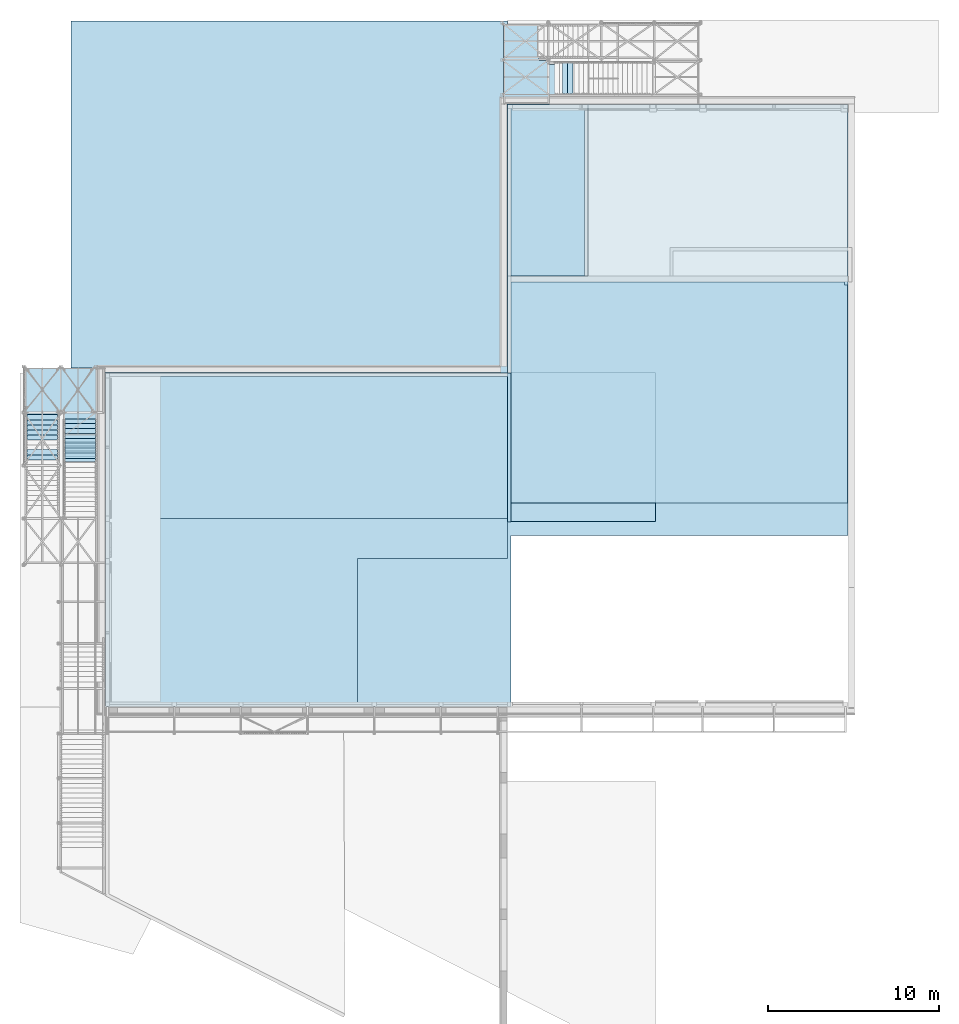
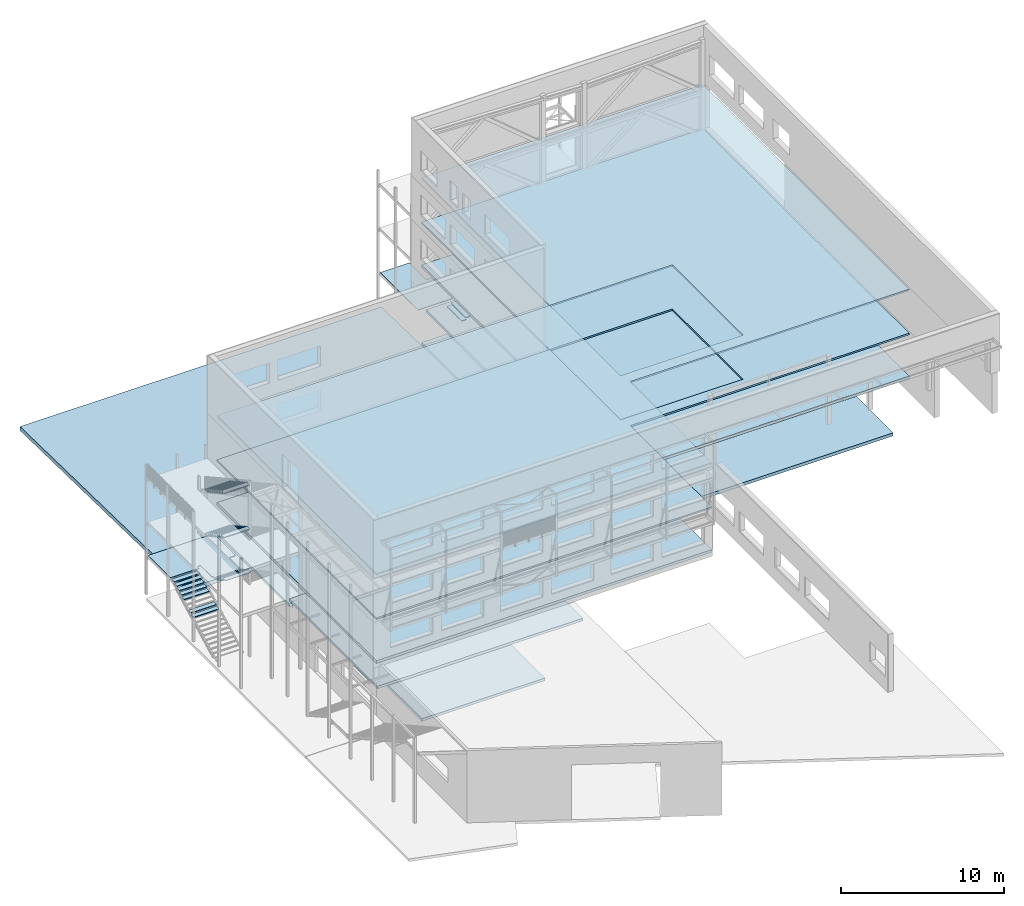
# One storey, part 59 of 78: 33 plates, 8 slabs, 41 elements without a shape of their own.
"""IFC2X3 building model written with IfcOpenShell, lengths in millimetres."""

from ifc_helpers import new_model, si_unit, frame, origin_with_axes, place, context, subcontext, project, spatial, polyline, outline, extrude, boolean, material, type_object, element, aggregate, save


model = new_model("IFC2X3")

# Units and contexts
model_context = context("Model", 3, precision=1e-05, world=origin_with_axes())
body_context = subcontext(model_context, "Body", "Model", "MODEL_VIEW")
ifc_project = project(units=[si_unit("LENGTHUNIT", "METRE", prefix="MILLI"), si_unit("AREAUNIT", "SQUARE_METRE"), si_unit("VOLUMEUNIT", "CUBIC_METRE"), si_unit("MASSUNIT", "GRAM", prefix="KILO"), si_unit("TIMEUNIT", "SECOND"), si_unit("PLANEANGLEUNIT", "RADIAN"), si_unit("SOLIDANGLEUNIT", "STERADIAN"), si_unit("THERMODYNAMICTEMPERATUREUNIT", "DEGREE_CELSIUS"), si_unit("LUMINOUSINTENSITYUNIT", "LUMEN")], contexts=[model_context])

# Site, building, storey
site_placement = place(None, origin_with_axes())
site = spatial("IfcSite", under=ifc_project, at=site_placement, Name="Site", CompositionType="ELEMENT")
building_placement = place(site_placement, origin_with_axes())
building = spatial("IfcBuilding", under=site, at=building_placement, Name="Undefined", CompositionType="ELEMENT")
storey_placement = place(building_placement, origin_with_axes())
storey = spatial("IfcBuildingStorey", under=building, at=storey_placement, Name="Undefined", CompositionType="ELEMENT", Elevation=0.0)

# Assembly, plate
assembly_1_placement = place(storey_placement, origin_with_axes())
assembly_1 = element("IfcElementAssembly", 1, at=assembly_1_placement, inside=storey, AssemblyPlace="NOTDEFINED", PredefinedType="RIGID_FRAME")
ifc_material_1 = material(Name="STEEL/S235JR")
plate_type_1 = type_object("IfcPlateType", Name="PL30*4325", PredefinedType="NOTDEFINED")
plate_1_placement = place(assembly_1_placement, frame((-35311.3999999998, 12733.0, 150885.04), z_axis=(0.0, 0.0, 1.0), x_axis=(0.0, -1.0, 0.0)))
plate_1 = element("IfcPlate", 2, at=plate_1_placement, type_object=plate_type_1, material=ifc_material_1, Name="CAILLEBOTIS", ObjectType="PL30*4325", context=body_context, shape_type="SweptSolid", body=[
    extrude(outline(polyline([(0.0, 0.0), (2759.00000000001, 5.0931703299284e-11), (2759.00000000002, 2019.96999999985), (2550.0, 2019.97420066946), (2550.0, 2248.53999999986), (3932.16000000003, 2248.53999999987), (3932.16000000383, 2333.53825699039), (4325.00000011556, 2333.5382569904), (4324.99999999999, 4123.5382569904), (3932.15999999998, 4123.5382569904), (3932.15999999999, 4208.48625219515), (2684.99981113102, 4208.54000000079), (2685.00000000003, 4656.39999999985), (3.63797880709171e-12, 4656.40000010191), (0.0, 0.0)])), frame((0.0, 0.0, -15.0), z_axis=(0.0, 0.0, 1.0), x_axis=(1.0, 0.0, 0.0)), (0.0, 0.0, 1.0), 30.0),
])
aggregate(assembly_1, [plate_1])

assembly_2_placement = place(storey_placement, origin_with_axes())
assembly_2 = element("IfcElementAssembly", 3, at=assembly_2_placement, inside=storey, Name="MARCHE", AssemblyPlace="NOTDEFINED", PredefinedType="RIGID_FRAME")
plate_type_2 = type_object("IfcPlateType", Name="PL1800*70", PredefinedType="NOTDEFINED")
plate_2_placement = place(assembly_2_placement, frame((-32082.8599999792, 7422.99999990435, 154652.540000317), z_axis=(-1.0, 0.0, 0.0), x_axis=(0.0, 1.0, 0.0)))
plate_2 = element("IfcPlate", 4, at=plate_2_placement, type_object=plate_type_2, material=ifc_material_1, Name="MARCHE", ObjectType="PL1800*70", context=body_context, shape_type="SweptSolid", body=[
    extrude(outline(polyline([(0.0, 0.0), (330.0, 0.0), (330.0, 70.0), (40.0, 70.0), (0.0, 40.0), (0.0, 0.0)])), frame((0.0, 0.0, -900.0), z_axis=(0.0, 0.0, 1.0), x_axis=(1.0, 0.0, 0.0)), (0.0, 0.0, 1.0), 1800.0),
])
aggregate(assembly_2, [plate_2])

assembly_3_placement = place(storey_placement, origin_with_axes())
assembly_3 = element("IfcElementAssembly", 5, at=assembly_3_placement, inside=storey, Name="MARCHE", AssemblyPlace="NOTDEFINED", PredefinedType="RIGID_FRAME")
plate_3_placement = place(assembly_3_placement, frame((-32082.8599999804, 7707.99999989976, 154495.040000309), z_axis=(-1.0, 0.0, 0.0), x_axis=(0.0, 1.0, 0.0)))
plate_3 = element("IfcPlate", 6, at=plate_3_placement, type_object=plate_type_2, material=ifc_material_1, Name="MARCHE", ObjectType="PL1800*70", context=body_context, shape_type="SweptSolid", body=[
    extrude(outline(polyline([(0.0, 0.0), (330.0, 0.0), (330.0, 70.0), (40.0, 70.0), (0.0, 40.0), (0.0, 0.0)])), frame((0.0, 0.0, -900.0), z_axis=(0.0, 0.0, 1.0), x_axis=(1.0, 0.0, 0.0)), (0.0, 0.0, 1.0), 1800.0),
])
aggregate(assembly_3, [plate_3])

assembly_4_placement = place(storey_placement, origin_with_axes())
assembly_4 = element("IfcElementAssembly", 7, at=assembly_4_placement, inside=storey, Name="MARCHE", AssemblyPlace="NOTDEFINED", PredefinedType="RIGID_FRAME")
plate_4_placement = place(assembly_4_placement, frame((-32082.8599999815, 7992.99999989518, 154337.540000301), z_axis=(-1.0, 0.0, 0.0), x_axis=(0.0, 1.0, 0.0)))
plate_4 = element("IfcPlate", 8, at=plate_4_placement, type_object=plate_type_2, material=ifc_material_1, Name="MARCHE", ObjectType="PL1800*70", context=body_context, shape_type="SweptSolid", body=[
    extrude(outline(polyline([(0.0, 0.0), (330.0, 0.0), (330.0, 70.0), (40.0, 70.0), (0.0, 40.0), (0.0, 0.0)])), frame((0.0, 0.0, -900.0), z_axis=(0.0, 0.0, 1.0), x_axis=(1.0, 0.0, 0.0)), (0.0, 0.0, 1.0), 1800.0),
])
aggregate(assembly_4, [plate_4])

assembly_5_placement = place(storey_placement, origin_with_axes())
assembly_5 = element("IfcElementAssembly", 9, at=assembly_5_placement, inside=storey, Name="MARCHE", AssemblyPlace="NOTDEFINED", PredefinedType="RIGID_FRAME")
plate_5_placement = place(assembly_5_placement, frame((-32082.8599999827, 8277.9999998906, 154180.040000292), z_axis=(-1.0, 0.0, 0.0), x_axis=(0.0, 1.0, 0.0)))
plate_5 = element("IfcPlate", 10, at=plate_5_placement, type_object=plate_type_2, material=ifc_material_1, Name="MARCHE", ObjectType="PL1800*70", context=body_context, shape_type="SweptSolid", body=[
    extrude(outline(polyline([(0.0, 0.0), (330.0, 0.0), (330.0, 70.0), (40.0, 70.0), (0.0, 40.0), (0.0, 0.0)])), frame((0.0, 0.0, -900.0), z_axis=(0.0, 0.0, 1.0), x_axis=(1.0, 0.0, 0.0)), (0.0, 0.0, 1.0), 1800.0),
])
aggregate(assembly_5, [plate_5])

assembly_6_placement = place(storey_placement, origin_with_axes())
assembly_6 = element("IfcElementAssembly", 11, at=assembly_6_placement, inside=storey, Name="MARCHE", AssemblyPlace="NOTDEFINED", PredefinedType="RIGID_FRAME")
plate_6_placement = place(assembly_6_placement, frame((-32082.8599999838, 8562.99999988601, 154022.540000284), z_axis=(-1.0, 0.0, 0.0), x_axis=(0.0, 1.0, 0.0)))
plate_6 = element("IfcPlate", 12, at=plate_6_placement, type_object=plate_type_2, material=ifc_material_1, Name="MARCHE", ObjectType="PL1800*70", context=body_context, shape_type="SweptSolid", body=[
    extrude(outline(polyline([(0.0, 0.0), (330.0, 0.0), (330.0, 70.0), (40.0, 70.0), (0.0, 40.0), (0.0, 0.0)])), frame((0.0, 0.0, -900.0), z_axis=(0.0, 0.0, 1.0), x_axis=(1.0, 0.0, 0.0)), (0.0, 0.0, 1.0), 1800.0),
])
aggregate(assembly_6, [plate_6])

assembly_7_placement = place(storey_placement, origin_with_axes())
assembly_7 = element("IfcElementAssembly", 13, at=assembly_7_placement, inside=storey, Name="MARCHE", AssemblyPlace="NOTDEFINED", PredefinedType="RIGID_FRAME")
plate_7_placement = place(assembly_7_placement, frame((-32082.859999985, 8847.99999988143, 153865.040000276), z_axis=(-1.0, 0.0, 0.0), x_axis=(0.0, 1.0, 0.0)))
plate_7 = element("IfcPlate", 14, at=plate_7_placement, type_object=plate_type_2, material=ifc_material_1, Name="MARCHE", ObjectType="PL1800*70", context=body_context, shape_type="SweptSolid", body=[
    extrude(outline(polyline([(0.0, 0.0), (330.0, 0.0), (330.0, 70.0), (40.0, 70.0), (0.0, 40.0), (0.0, 0.0)])), frame((0.0, 0.0, -900.0), z_axis=(0.0, 0.0, 1.0), x_axis=(1.0, 0.0, 0.0)), (0.0, 0.0, 1.0), 1800.0),
])
aggregate(assembly_7, [plate_7])

assembly_8_placement = place(storey_placement, origin_with_axes())
assembly_8 = element("IfcElementAssembly", 15, at=assembly_8_placement, inside=storey, Name="MARCHE", AssemblyPlace="NOTDEFINED", PredefinedType="RIGID_FRAME")
plate_8_placement = place(assembly_8_placement, frame((-32082.8599999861, 9132.99999987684, 153707.540000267), z_axis=(-1.0, 0.0, 0.0), x_axis=(0.0, 1.0, 0.0)))
plate_8 = element("IfcPlate", 16, at=plate_8_placement, type_object=plate_type_2, material=ifc_material_1, Name="MARCHE", ObjectType="PL1800*70", context=body_context, shape_type="SweptSolid", body=[
    extrude(outline(polyline([(0.0, 0.0), (330.0, 0.0), (330.0, 70.0), (40.0, 70.0), (0.0, 40.0), (0.0, 0.0)])), frame((0.0, 0.0, -900.0), z_axis=(0.0, 0.0, 1.0), x_axis=(1.0, 0.0, 0.0)), (0.0, 0.0, 1.0), 1800.0),
])
aggregate(assembly_8, [plate_8])

assembly_9_placement = place(storey_placement, origin_with_axes())
assembly_9 = element("IfcElementAssembly", 17, at=assembly_9_placement, inside=storey, Name="MARCHE", AssemblyPlace="NOTDEFINED", PredefinedType="RIGID_FRAME")
plate_9_placement = place(assembly_9_placement, frame((-32082.8599999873, 9417.99999987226, 153550.040000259), z_axis=(-1.0, 0.0, 0.0), x_axis=(0.0, 1.0, 0.0)))
plate_9 = element("IfcPlate", 18, at=plate_9_placement, type_object=plate_type_2, material=ifc_material_1, Name="MARCHE", ObjectType="PL1800*70", context=body_context, shape_type="SweptSolid", body=[
    extrude(outline(polyline([(0.0, 0.0), (330.0, 0.0), (330.0, 70.0), (40.0, 70.0), (0.0, 40.0), (0.0, 0.0)])), frame((0.0, 0.0, -900.0), z_axis=(0.0, 0.0, 1.0), x_axis=(1.0, 0.0, 0.0)), (0.0, 0.0, 1.0), 1800.0),
])
aggregate(assembly_9, [plate_9])

assembly_10_placement = place(storey_placement, origin_with_axes())
assembly_10 = element("IfcElementAssembly", 19, at=assembly_10_placement, inside=storey, Name="MARCHE", AssemblyPlace="NOTDEFINED", PredefinedType="RIGID_FRAME")
plate_10_placement = place(assembly_10_placement, frame((-3256.42999992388, 29662.9999999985, 147867.040000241), z_axis=(0.0, -1.0, 0.0), x_axis=(-1.0, 0.0, 0.0)))
plate_10 = element("IfcPlate", 20, at=plate_10_placement, type_object=plate_type_2, material=ifc_material_1, Name="MARCHE", ObjectType="PL1800*70", context=body_context, shape_type="SweptSolid", body=[
    extrude(outline(polyline([(0.0, 0.0), (330.0, 0.0), (330.0, 70.0), (40.0, 70.0), (0.0, 40.0), (0.0, 0.0)])), frame((0.0, 0.0, -900.0), z_axis=(0.0, 0.0, 1.0), x_axis=(1.0, 0.0, 0.0)), (0.0, 0.0, 1.0), 1800.0),
])
aggregate(assembly_10, [plate_10])

assembly_11_placement = place(storey_placement, origin_with_axes())
assembly_11 = element("IfcElementAssembly", 21, at=assembly_11_placement, inside=storey, Name="MARCHE", AssemblyPlace="NOTDEFINED", PredefinedType="RIGID_FRAME")
plate_11_placement = place(assembly_11_placement, frame((-3541.42999993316, 29662.999999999, 147707.540000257), z_axis=(0.0, -1.0, 0.0), x_axis=(-1.0, 0.0, 0.0)))
plate_11 = element("IfcPlate", 22, at=plate_11_placement, type_object=plate_type_2, material=ifc_material_1, Name="MARCHE", ObjectType="PL1800*70", context=body_context, shape_type="SweptSolid", body=[
    extrude(outline(polyline([(0.0, 0.0), (330.0, 0.0), (330.0, 70.0), (40.0, 70.0), (0.0, 40.0), (0.0, 0.0)])), frame((0.0, 0.0, -900.0), z_axis=(0.0, 0.0, 1.0), x_axis=(1.0, 0.0, 0.0)), (0.0, 0.0, 1.0), 1800.0),
])
aggregate(assembly_11, [plate_11])

assembly_12_placement = place(storey_placement, origin_with_axes())
assembly_12 = element("IfcElementAssembly", 23, at=assembly_12_placement, inside=storey, Name="MARCHE", AssemblyPlace="NOTDEFINED", PredefinedType="RIGID_FRAME")
plate_12_placement = place(assembly_12_placement, frame((-32082.8599999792, 7422.99999990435, 157952.540000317), z_axis=(-1.0, 0.0, 0.0), x_axis=(0.0, 1.0, 0.0)))
plate_12 = element("IfcPlate", 24, at=plate_12_placement, type_object=plate_type_2, material=ifc_material_1, Name="MARCHE", ObjectType="PL1800*70", context=body_context, shape_type="SweptSolid", body=[
    extrude(outline(polyline([(0.0, 0.0), (330.0, 0.0), (330.0, 70.0), (40.0, 70.0), (0.0, 40.0), (0.0, 0.0)])), frame((0.0, 0.0, -900.0), z_axis=(0.0, 0.0, 1.0), x_axis=(1.0, 0.0, 0.0)), (0.0, 0.0, 1.0), 1800.0),
])
aggregate(assembly_12, [plate_12])

assembly_13_placement = place(storey_placement, origin_with_axes())
assembly_13 = element("IfcElementAssembly", 25, at=assembly_13_placement, inside=storey, Name="MARCHE", AssemblyPlace="NOTDEFINED", PredefinedType="RIGID_FRAME")
plate_13_placement = place(assembly_13_placement, frame((-32082.8599999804, 7707.99999989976, 157795.040000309), z_axis=(-1.0, 0.0, 0.0), x_axis=(0.0, 1.0, 0.0)))
plate_13 = element("IfcPlate", 26, at=plate_13_placement, type_object=plate_type_2, material=ifc_material_1, Name="MARCHE", ObjectType="PL1800*70", context=body_context, shape_type="SweptSolid", body=[
    extrude(outline(polyline([(0.0, 0.0), (330.0, 0.0), (330.0, 70.0), (40.0, 70.0), (0.0, 40.0), (0.0, 0.0)])), frame((0.0, 0.0, -900.0), z_axis=(0.0, 0.0, 1.0), x_axis=(1.0, 0.0, 0.0)), (0.0, 0.0, 1.0), 1800.0),
])
aggregate(assembly_13, [plate_13])

assembly_14_placement = place(storey_placement, origin_with_axes())
assembly_14 = element("IfcElementAssembly", 27, at=assembly_14_placement, inside=storey, Name="MARCHE", AssemblyPlace="NOTDEFINED", PredefinedType="RIGID_FRAME")
plate_14_placement = place(assembly_14_placement, frame((-32082.8599999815, 7992.99999989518, 157637.540000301), z_axis=(-1.0, 0.0, 0.0), x_axis=(0.0, 1.0, 0.0)))
plate_14 = element("IfcPlate", 28, at=plate_14_placement, type_object=plate_type_2, material=ifc_material_1, Name="MARCHE", ObjectType="PL1800*70", context=body_context, shape_type="SweptSolid", body=[
    extrude(outline(polyline([(0.0, 0.0), (330.0, 0.0), (330.0, 70.0), (40.0, 70.0), (0.0, 40.0), (0.0, 0.0)])), frame((0.0, 0.0, -900.0), z_axis=(0.0, 0.0, 1.0), x_axis=(1.0, 0.0, 0.0)), (0.0, 0.0, 1.0), 1800.0),
])
aggregate(assembly_14, [plate_14])

assembly_15_placement = place(storey_placement, origin_with_axes())
assembly_15 = element("IfcElementAssembly", 29, at=assembly_15_placement, inside=storey, Name="MARCHE", AssemblyPlace="NOTDEFINED", PredefinedType="RIGID_FRAME")
plate_15_placement = place(assembly_15_placement, frame((-32082.8599999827, 8277.9999998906, 157480.040000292), z_axis=(-1.0, 0.0, 0.0), x_axis=(0.0, 1.0, 0.0)))
plate_15 = element("IfcPlate", 30, at=plate_15_placement, type_object=plate_type_2, material=ifc_material_1, Name="MARCHE", ObjectType="PL1800*70", context=body_context, shape_type="SweptSolid", body=[
    extrude(outline(polyline([(0.0, 0.0), (330.0, 0.0), (330.0, 70.0), (40.0, 70.0), (0.0, 40.0), (0.0, 0.0)])), frame((0.0, 0.0, -900.0), z_axis=(0.0, 0.0, 1.0), x_axis=(1.0, 0.0, 0.0)), (0.0, 0.0, 1.0), 1800.0),
])
aggregate(assembly_15, [plate_15])

assembly_16_placement = place(storey_placement, origin_with_axes())
assembly_16 = element("IfcElementAssembly", 31, at=assembly_16_placement, inside=storey, Name="MARCHE", AssemblyPlace="NOTDEFINED", PredefinedType="RIGID_FRAME")
plate_16_placement = place(assembly_16_placement, frame((-32082.8599999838, 8562.99999988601, 157322.540000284), z_axis=(-1.0, 0.0, 0.0), x_axis=(0.0, 1.0, 0.0)))
plate_16 = element("IfcPlate", 32, at=plate_16_placement, type_object=plate_type_2, material=ifc_material_1, Name="MARCHE", ObjectType="PL1800*70", context=body_context, shape_type="SweptSolid", body=[
    extrude(outline(polyline([(0.0, 0.0), (330.0, 0.0), (330.0, 70.0), (40.0, 70.0), (0.0, 40.0), (0.0, 0.0)])), frame((0.0, 0.0, -900.0), z_axis=(0.0, 0.0, 1.0), x_axis=(1.0, 0.0, 0.0)), (0.0, 0.0, 1.0), 1800.0),
])
aggregate(assembly_16, [plate_16])

assembly_17_placement = place(storey_placement, origin_with_axes())
assembly_17 = element("IfcElementAssembly", 33, at=assembly_17_placement, inside=storey, Name="MARCHE", AssemblyPlace="NOTDEFINED", PredefinedType="RIGID_FRAME")
plate_17_placement = place(assembly_17_placement, frame((-32082.859999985, 8847.99999988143, 157165.040000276), z_axis=(-1.0, 0.0, 0.0), x_axis=(0.0, 1.0, 0.0)))
plate_17 = element("IfcPlate", 34, at=plate_17_placement, type_object=plate_type_2, material=ifc_material_1, Name="MARCHE", ObjectType="PL1800*70", context=body_context, shape_type="SweptSolid", body=[
    extrude(outline(polyline([(0.0, 0.0), (330.0, 0.0), (330.0, 70.0), (40.0, 70.0), (0.0, 40.0), (0.0, 0.0)])), frame((0.0, 0.0, -900.0), z_axis=(0.0, 0.0, 1.0), x_axis=(1.0, 0.0, 0.0)), (0.0, 0.0, 1.0), 1800.0),
])
aggregate(assembly_17, [plate_17])

assembly_18_placement = place(storey_placement, origin_with_axes())
assembly_18 = element("IfcElementAssembly", 35, at=assembly_18_placement, inside=storey, Name="MARCHE", AssemblyPlace="NOTDEFINED", PredefinedType="RIGID_FRAME")
plate_18_placement = place(assembly_18_placement, frame((-32082.8599999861, 9132.99999987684, 157007.540000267), z_axis=(-1.0, 0.0, 0.0), x_axis=(0.0, 1.0, 0.0)))
plate_18 = element("IfcPlate", 36, at=plate_18_placement, type_object=plate_type_2, material=ifc_material_1, Name="MARCHE", ObjectType="PL1800*70", context=body_context, shape_type="SweptSolid", body=[
    extrude(outline(polyline([(0.0, 0.0), (330.0, 0.0), (330.0, 70.0), (40.0, 70.0), (0.0, 40.0), (0.0, 0.0)])), frame((0.0, 0.0, -900.0), z_axis=(0.0, 0.0, 1.0), x_axis=(1.0, 0.0, 0.0)), (0.0, 0.0, 1.0), 1800.0),
])
aggregate(assembly_18, [plate_18])

assembly_19_placement = place(storey_placement, origin_with_axes())
assembly_19 = element("IfcElementAssembly", 37, at=assembly_19_placement, inside=storey, Name="MARCHE", AssemblyPlace="NOTDEFINED", PredefinedType="RIGID_FRAME")
plate_19_placement = place(assembly_19_placement, frame((-32082.8599999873, 9417.99999987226, 156850.040000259), z_axis=(-1.0, 0.0, 0.0), x_axis=(0.0, 1.0, 0.0)))
plate_19 = element("IfcPlate", 38, at=plate_19_placement, type_object=plate_type_2, material=ifc_material_1, Name="MARCHE", ObjectType="PL1800*70", context=body_context, shape_type="SweptSolid", body=[
    extrude(outline(polyline([(0.0, 0.0), (330.0, 0.0), (330.0, 70.0), (40.0, 70.0), (0.0, 40.0), (0.0, 0.0)])), frame((0.0, 0.0, -900.0), z_axis=(0.0, 0.0, 1.0), x_axis=(1.0, 0.0, 0.0)), (0.0, 0.0, 1.0), 1800.0),
])
aggregate(assembly_19, [plate_19])

assembly_20_placement = place(storey_placement, origin_with_axes())
assembly_20 = element("IfcElementAssembly", 39, at=assembly_20_placement, inside=storey, Name="MARCHE", AssemblyPlace="NOTDEFINED", PredefinedType="RIGID_FRAME")
plate_20_placement = place(assembly_20_placement, frame((-34301.4300000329, 10009.0000000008, 150747.040000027), z_axis=(1.0, 0.0, 0.0), x_axis=(0.0, -1.0, 0.0)))
plate_20 = element("IfcPlate", 40, at=plate_20_placement, type_object=plate_type_2, material=ifc_material_1, Name="MARCHE", ObjectType="PL1800*70", context=body_context, shape_type="SweptSolid", body=[
    extrude(outline(polyline([(0.0, 0.0), (330.0, 0.0), (330.0, 70.0), (40.0, 70.0), (0.0, 40.0), (0.0, 0.0)])), frame((0.0, 0.0, -900.0), z_axis=(0.0, 0.0, 1.0), x_axis=(1.0, 0.0, 0.0)), (0.0, 0.0, 1.0), 1800.0),
])
aggregate(assembly_20, [plate_20])

assembly_21_placement = place(storey_placement, origin_with_axes())
assembly_21 = element("IfcElementAssembly", 41, at=assembly_21_placement, inside=storey, Name="MARCHE", AssemblyPlace="NOTDEFINED", PredefinedType="RIGID_FRAME")
plate_21_placement = place(assembly_21_placement, frame((-34301.4300000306, 9715.00000000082, 150594.040000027), z_axis=(1.0, 0.0, 0.0), x_axis=(0.0, -1.0, 0.0)))
plate_21 = element("IfcPlate", 42, at=plate_21_placement, type_object=plate_type_2, material=ifc_material_1, Name="MARCHE", ObjectType="PL1800*70", context=body_context, shape_type="SweptSolid", body=[
    extrude(outline(polyline([(0.0, 0.0), (330.0, 0.0), (330.0, 70.0), (40.0, 70.0), (0.0, 40.0), (0.0, 0.0)])), frame((0.0, 0.0, -900.0), z_axis=(0.0, 0.0, 1.0), x_axis=(1.0, 0.0, 0.0)), (0.0, 0.0, 1.0), 1800.0),
])
aggregate(assembly_21, [plate_21])

assembly_22_placement = place(storey_placement, origin_with_axes())
assembly_22 = element("IfcElementAssembly", 43, at=assembly_22_placement, inside=storey, Name="MARCHE", AssemblyPlace="NOTDEFINED", PredefinedType="RIGID_FRAME")
plate_22_placement = place(assembly_22_placement, frame((-34301.4300000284, 9421.00000000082, 150441.040000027), z_axis=(1.0, 0.0, 0.0), x_axis=(0.0, -1.0, 0.0)))
plate_22 = element("IfcPlate", 44, at=plate_22_placement, type_object=plate_type_2, material=ifc_material_1, Name="MARCHE", ObjectType="PL1800*70", context=body_context, shape_type="SweptSolid", body=[
    extrude(outline(polyline([(0.0, 0.0), (330.0, 0.0), (330.0, 70.0), (40.0, 70.0), (0.0, 40.0), (0.0, 0.0)])), frame((0.0, 0.0, -900.0), z_axis=(0.0, 0.0, 1.0), x_axis=(1.0, 0.0, 0.0)), (0.0, 0.0, 1.0), 1800.0),
])
aggregate(assembly_22, [plate_22])

assembly_23_placement = place(storey_placement, origin_with_axes())
assembly_23 = element("IfcElementAssembly", 45, at=assembly_23_placement, inside=storey, Name="MARCHE", AssemblyPlace="NOTDEFINED", PredefinedType="RIGID_FRAME")
plate_23_placement = place(assembly_23_placement, frame((-34301.4300000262, 9127.00000000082, 150288.040000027), z_axis=(1.0, 0.0, 0.0), x_axis=(0.0, -1.0, 0.0)))
plate_23 = element("IfcPlate", 46, at=plate_23_placement, type_object=plate_type_2, material=ifc_material_1, Name="MARCHE", ObjectType="PL1800*70", context=body_context, shape_type="SweptSolid", body=[
    extrude(outline(polyline([(0.0, 0.0), (330.0, 0.0), (330.0, 70.0), (40.0, 70.0), (0.0, 40.0), (0.0, 0.0)])), frame((0.0, 0.0, -900.0), z_axis=(0.0, 0.0, 1.0), x_axis=(1.0, 0.0, 0.0)), (0.0, 0.0, 1.0), 1800.0),
])
aggregate(assembly_23, [plate_23])

assembly_24_placement = place(storey_placement, origin_with_axes())
assembly_24 = element("IfcElementAssembly", 47, at=assembly_24_placement, inside=storey, Name="MARCHE", AssemblyPlace="NOTDEFINED", PredefinedType="RIGID_FRAME")
plate_24_placement = place(assembly_24_placement, frame((-34301.4300000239, 8833.00000000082, 150135.040000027), z_axis=(1.0, 0.0, 0.0), x_axis=(0.0, -1.0, 0.0)))
plate_24 = element("IfcPlate", 48, at=plate_24_placement, type_object=plate_type_2, material=ifc_material_1, Name="MARCHE", ObjectType="PL1800*70", context=body_context, shape_type="SweptSolid", body=[
    extrude(outline(polyline([(0.0, 0.0), (330.0, 0.0), (330.0, 70.0), (40.0, 70.0), (0.0, 40.0), (0.0, 0.0)])), frame((0.0, 0.0, -900.0), z_axis=(0.0, 0.0, 1.0), x_axis=(1.0, 0.0, 0.0)), (0.0, 0.0, 1.0), 1800.0),
])
aggregate(assembly_24, [plate_24])

assembly_25_placement = place(storey_placement, origin_with_axes())
assembly_25 = element("IfcElementAssembly", 49, at=assembly_25_placement, inside=storey, Name="MARCHE", AssemblyPlace="NOTDEFINED", PredefinedType="RIGID_FRAME")
plate_25_placement = place(assembly_25_placement, frame((-34301.4300000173, 7951.00000000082, 149676.040000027), z_axis=(1.0, 0.0, 0.0), x_axis=(0.0, -1.0, 0.0)))
plate_25 = element("IfcPlate", 50, at=plate_25_placement, type_object=plate_type_2, material=ifc_material_1, Name="MARCHE", ObjectType="PL1800*70", context=body_context, shape_type="SweptSolid", body=[
    extrude(outline(polyline([(0.0, 0.0), (330.0, 0.0), (330.0, 70.0), (40.0, 70.0), (0.0, 40.0), (0.0, 0.0)])), frame((0.0, 0.0, -900.0), z_axis=(0.0, 0.0, 1.0), x_axis=(1.0, 0.0, 0.0)), (0.0, 0.0, 1.0), 1800.0),
])
aggregate(assembly_25, [plate_25])

assembly_26_placement = place(storey_placement, origin_with_axes())
assembly_26 = element("IfcElementAssembly", 51, at=assembly_26_placement, inside=storey, Name="MARCHE", AssemblyPlace="NOTDEFINED", PredefinedType="RIGID_FRAME")
plate_26_placement = place(assembly_26_placement, frame((-34301.430000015, 7657.00000000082, 149523.040000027), z_axis=(1.0, 0.0, 0.0), x_axis=(0.0, -1.0, 0.0)))
plate_26 = element("IfcPlate", 52, at=plate_26_placement, type_object=plate_type_2, material=ifc_material_1, Name="MARCHE", ObjectType="PL1800*70", context=body_context, shape_type="SweptSolid", body=[
    extrude(outline(polyline([(0.0, 0.0), (330.0, 0.0), (330.0, 70.0), (40.0, 70.0), (0.0, 40.0), (0.0, 0.0)])), frame((0.0, 0.0, -900.0), z_axis=(0.0, 0.0, 1.0), x_axis=(1.0, 0.0, 0.0)), (0.0, 0.0, 1.0), 1800.0),
])
aggregate(assembly_26, [plate_26])

assembly_27_placement = place(storey_placement, origin_with_axes())
assembly_27 = element("IfcElementAssembly", 53, at=assembly_27_placement, inside=storey, Name="MARCHE", AssemblyPlace="NOTDEFINED", PredefinedType="RIGID_FRAME")
plate_27_placement = place(assembly_27_placement, frame((-32082.8600000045, 7245.99999978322, 151522.040107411), z_axis=(-1.0, 0.0, 0.0), x_axis=(0.0, 1.0, 0.0)))
plate_27 = element("IfcPlate", 54, at=plate_27_placement, type_object=plate_type_2, material=ifc_material_1, Name="MARCHE", ObjectType="PL1800*70", context=body_context, shape_type="SweptSolid", body=[
    extrude(outline(polyline([(0.0, 0.0), (330.0, 0.0), (330.0, 70.0), (40.0, 70.0), (0.0, 40.0), (0.0, 0.0)])), frame((0.0, 0.0, -900.0), z_axis=(0.0, 0.0, 1.0), x_axis=(1.0, 0.0, 0.0)), (0.0, 0.0, 1.0), 1800.0),
])
aggregate(assembly_27, [plate_27])

assembly_28_placement = place(storey_placement, origin_with_axes())
assembly_28 = element("IfcElementAssembly", 55, at=assembly_28_placement, inside=storey, Name="MARCHE", AssemblyPlace="NOTDEFINED", PredefinedType="RIGID_FRAME")
plate_28_placement = place(assembly_28_placement, frame((-32082.8600000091, 7539.99999979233, 151365.540107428), z_axis=(-1.0, 0.0, 0.0), x_axis=(0.0, 1.0, 0.0)))
plate_28 = element("IfcPlate", 56, at=plate_28_placement, type_object=plate_type_2, material=ifc_material_1, Name="MARCHE", ObjectType="PL1800*70", context=body_context, shape_type="SweptSolid", body=[
    extrude(outline(polyline([(0.0, 0.0), (330.0, 0.0), (330.0, 70.0), (40.0, 70.0), (0.0, 40.0), (0.0, 0.0)])), frame((0.0, 0.0, -900.0), z_axis=(0.0, 0.0, 1.0), x_axis=(1.0, 0.0, 0.0)), (0.0, 0.0, 1.0), 1800.0),
])
aggregate(assembly_28, [plate_28])

assembly_29_placement = place(storey_placement, origin_with_axes())
assembly_29 = element("IfcElementAssembly", 57, at=assembly_29_placement, inside=storey, Name="MARCHE", AssemblyPlace="NOTDEFINED", PredefinedType="RIGID_FRAME")
plate_29_placement = place(assembly_29_placement, frame((-32082.8600000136, 7833.99999980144, 151209.040107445), z_axis=(-1.0, 0.0, 0.0), x_axis=(0.0, 1.0, 0.0)))
plate_29 = element("IfcPlate", 58, at=plate_29_placement, type_object=plate_type_2, material=ifc_material_1, Name="MARCHE", ObjectType="PL1800*70", context=body_context, shape_type="SweptSolid", body=[
    extrude(outline(polyline([(0.0, 0.0), (330.0, 0.0), (330.0, 70.0), (40.0, 70.0), (0.0, 40.0), (0.0, 0.0)])), frame((0.0, 0.0, -900.0), z_axis=(0.0, 0.0, 1.0), x_axis=(1.0, 0.0, 0.0)), (0.0, 0.0, 1.0), 1800.0),
])
aggregate(assembly_29, [plate_29])

assembly_30_placement = place(storey_placement, origin_with_axes())
assembly_30 = element("IfcElementAssembly", 59, at=assembly_30_placement, inside=storey, Name="MARCHE", AssemblyPlace="NOTDEFINED", PredefinedType="RIGID_FRAME")
plate_30_placement = place(assembly_30_placement, frame((-32082.8600000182, 8127.99999981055, 151052.540107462), z_axis=(-1.0, 0.0, 0.0), x_axis=(0.0, 1.0, 0.0)))
plate_30 = element("IfcPlate", 60, at=plate_30_placement, type_object=plate_type_2, material=ifc_material_1, Name="MARCHE", ObjectType="PL1800*70", context=body_context, shape_type="SweptSolid", body=[
    extrude(outline(polyline([(0.0, 0.0), (330.0, 0.0), (330.0, 70.0), (40.0, 70.0), (0.0, 40.0), (0.0, 0.0)])), frame((0.0, 0.0, -900.0), z_axis=(0.0, 0.0, 1.0), x_axis=(1.0, 0.0, 0.0)), (0.0, 0.0, 1.0), 1800.0),
])
aggregate(assembly_30, [plate_30])

assembly_31_placement = place(storey_placement, origin_with_axes())
assembly_31 = element("IfcElementAssembly", 61, at=assembly_31_placement, inside=storey, AssemblyPlace="NOTDEFINED", PredefinedType="RIGID_FRAME")
plate_type_3 = type_object("IfcPlateType", Name="PL30*3035", PredefinedType="NOTDEFINED")
plate_31_placement = place(assembly_31_placement, frame((-5246.43, 32768.0, 150085.04), z_axis=(0.0, 0.0, 1.0), x_axis=(-1.0, 0.0, 0.0)))
plate_31 = element("IfcPlate", 62, at=plate_31_placement, type_object=plate_type_3, material=ifc_material_1, Name="CAILLEBOTIS", ObjectType="PL30*3035", context=body_context, shape_type="SweptSolid", body=[
    extrude(outline(polyline([(0.0, 0.0), (2080.0, -2.91038304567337e-11), (2080.0, 4632.99999999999), (-605.000000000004, 4632.99999999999), (-605.00000000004, 4075.00000001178), (-955.000000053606, 4074.99999998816), (-955.00000000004, 2284.99999998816), (-605.00000000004, 2284.99999998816), (-605.000000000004, 2169.99999999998), (-469.999999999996, 2169.99999999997), (-470.000000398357, 2058.50000000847), (4.85415512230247e-08, 2058.50000000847), (0.0, 0.0)])), frame((0.0, 0.0, -15.0), z_axis=(0.0, 0.0, 1.0), x_axis=(1.0, 0.0, 0.0)), (0.0, 0.0, 1.0), 30.0),
])
aggregate(assembly_31, [plate_31])

# Assembly, slab
assembly_32_placement = place(storey_placement, origin_with_axes())
assembly_32 = element("IfcElementAssembly", 63, at=assembly_32_placement, inside=storey, Name="DALLE", AssemblyPlace="NOTDEFINED", PredefinedType="REINFORCEMENT_UNIT")
ifc_material_2 = material(Name="CONCRETE/C25/30")
slab_type_1 = type_object("IfcSlabType", Name="200*8295", PredefinedType="NOTDEFINED")
slab_1_placement = place(assembly_32_placement, frame((-7085.00358756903, 3920.00011474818, 150800.046335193), z_axis=(-1.13999994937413e-07, 1.20599999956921e-06, 0.999999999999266), x_axis=(0.0, 0.999999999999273, -1.20599999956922e-06)))
slab_1 = element("IfcSlab", 64, at=slab_1_placement, type_object=slab_type_1, material=ifc_material_2, Name="DALLE", ObjectType="200*8295", PredefinedType="FLOOR", context=body_context, shape_type="SweptSolid", body=[
    extrude(outline(polyline([(0.0, 0.0), (8295.00152586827, -7.14862835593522e-10), (8295.00152586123, 23319.9965198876), (-9.88165993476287e-10, 23338.1597018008), (0.0, 0.0)])), frame((0.0, -9.09494701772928e-13, -100.0), z_axis=(0.0, 0.0, 1.0), x_axis=(1.0, 0.0, 0.0)), (0.0, 0.0, 1.0), 200.0),
])
aggregate(assembly_32, [slab_1])

# Assembly, plate
assembly_33_placement = place(storey_placement, origin_with_axes())
assembly_33 = element("IfcElementAssembly", 65, at=assembly_33_placement, inside=storey, Name="DALLE", AssemblyPlace="NOTDEFINED", PredefinedType="NOTDEFINED")
ifc_material_3 = material(Name="TIMBER/CHENE")
plate_type_4 = type_object("IfcPlateType", Name="120*43450", PredefinedType="NOTDEFINED")
plate_32_placement = place(assembly_33_placement, frame((-30604.9999280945, -7085.00129057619, 159840.040106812), z_axis=(0.0, 0.0, 1.0), x_axis=(1.0, 0.0, 0.0)))
plate_32 = element("IfcPlate", 66, at=plate_32_placement, type_object=plate_type_4, material=ifc_material_3, Name="DALLE", ObjectType="120*43450", context=body_context, shape_type="CSG", body=[
    boolean("DIFFERENCE", extrude(outline(polyline([(0.0, 0.0), (23719.9988365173, 4.54747350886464e-12), (23719.9988365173, 10001.0757446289), (43450.0002861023, 10001.0757446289), (43450.0002861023, 35220.0012207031), (23519.9999809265, 35220.0012207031), (23519.9999809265, 19499.9951806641), (7.27595761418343e-12, 19500.0), (0.0, 0.0)])), frame((0.0, 0.0, -60.0), z_axis=(0.0, 0.0, 1.0), x_axis=(1.0, 0.0, 0.0)), (0.0, 0.0, 1.0), 120.0), extrude(outline(polyline([(0.0, 0.0), (8659.99984741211, 0.0), (8659.99984741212, 8659.99984741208), (0.0, 8659.99984741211), (0.0, 0.0)])), frame((32181.5676689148, 10840.0001525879, -142.5), z_axis=(0.0, 0.0, 1.0), x_axis=(0.0, 1.0, 0.0)), (0.0, 0.0, 1.0), 205.0)),
])
aggregate(assembly_33, [plate_32])

assembly_34_placement = place(storey_placement, origin_with_axes())
assembly_34 = element("IfcElementAssembly", 67, at=assembly_34_placement, inside=storey, Name="DALLE", AssemblyPlace="NOTDEFINED", PredefinedType="NOTDEFINED")
plate_33_placement = place(assembly_34_placement, frame((-30604.9999280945, -7085.00129057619, 156540.040106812), z_axis=(0.0, 0.0, 1.0), x_axis=(1.0, 0.0, 0.0)))
plate_33 = element("IfcPlate", 68, at=plate_33_placement, type_object=plate_type_4, material=ifc_material_3, Name="DALLE", ObjectType="120*43450", context=body_context, shape_type="CSG", body=[
    boolean("DIFFERENCE", extrude(outline(polyline([(0.0, 0.0), (23719.9988365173, 4.54747350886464e-12), (23719.9988365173, 10001.0757446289), (43450.0002861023, 10001.0757446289), (43450.0002861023, 35220.0012207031), (23519.9999809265, 35220.0012207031), (23519.9999809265, 19499.9951806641), (7.27595761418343e-12, 19500.0), (0.0, 0.0)])), frame((0.0, 0.0, -60.0), z_axis=(0.0, 0.0, 1.0), x_axis=(1.0, 0.0, 0.0)), (0.0, 0.0, 1.0), 120.0), extrude(outline(polyline([(0.0, 0.0), (8659.99984741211, 0.0), (8659.99984741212, 8659.99984741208), (0.0, 8659.99984741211), (0.0, 0.0)])), frame((32181.5676689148, 10840.0001525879, -142.5), z_axis=(0.0, 0.0, 1.0), x_axis=(0.0, 1.0, 0.0)), (0.0, 0.0, 1.0), 205.0)),
])
aggregate(assembly_34, [plate_33])

# Assembly, slab
assembly_35_placement = place(storey_placement, origin_with_axes())
assembly_35 = element("IfcElementAssembly", 69, at=assembly_35_placement, inside=storey, Name="DALLE", AssemblyPlace="NOTDEFINED", PredefinedType="REINFORCEMENT_UNIT")
slab_type_2 = type_object("IfcSlabType", Name="200*10805", PredefinedType="NOTDEFINED")
slab_2_placement = place(assembly_35_placement, frame((-7084.99999156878, 1565.00023530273, 151200.044433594), z_axis=(0.0, 0.0, 1.0), x_axis=(0.0, 1.0, 0.0)))
slab_2 = element("IfcSlab", 70, at=slab_2_placement, type_object=slab_type_2, material=ifc_material_2, Name="DALLE", ObjectType="200*10805", PredefinedType="FLOOR", context=body_context, shape_type="SweptSolid", body=[
    extrude(outline(polyline([(0.0, 0.0), (2355.0015258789, -1.45519152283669e-11), (2355.00152587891, 23319.9965198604), (-8450.00076293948, 23338.1597017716), (-8450.00076293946, 8790.55976850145), (-7.27595761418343e-12, 8790.55976850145), (0.0, 0.0)])), frame((0.0, -9.09494701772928e-13, -100.0), z_axis=(0.0, 0.0, 1.0), x_axis=(1.0, 0.0, 0.0)), (0.0, 0.0, 1.0), 200.0),
])
aggregate(assembly_35, [slab_2])

assembly_36_placement = place(storey_placement, origin_with_axes())
assembly_36 = element("IfcElementAssembly", 71, at=assembly_36_placement, inside=storey, Name="DALLE", AssemblyPlace="NOTDEFINED", PredefinedType="REINFORCEMENT_UNIT")
slab_type_3 = type_object("IfcSlabType", Name="200*4299", PredefinedType="NOTDEFINED")
slab_3_placement = place(assembly_36_placement, frame((-6884.99918422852, 27935.0029818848, 150000.039916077), z_axis=(0.0, 0.0, 1.0), x_axis=(0.0, -1.0, 0.0)))
slab_3 = element("IfcSlab", 72, at=slab_3_placement, type_object=slab_type_3, material=ifc_material_2, Name="DALLE", ObjectType="200*4299", PredefinedType="FLOOR", context=body_context, shape_type="SweptSolid", body=[
    extrude(outline(polyline([(0.0, 0.0), (9831.93969726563, -1.81898940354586e-12), (9831.93969726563, 4299.09896850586), (0.0, 4299.09896850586), (0.0, 0.0)])), frame((0.0, -9.09494701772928e-13, -100.0), z_axis=(0.0, 0.0, 1.0), x_axis=(1.0, 0.0, 0.0)), (0.0, 0.0, 1.0), 200.0),
])
aggregate(assembly_36, [slab_3])

assembly_37_placement = place(storey_placement, origin_with_axes())
assembly_37 = element("IfcElementAssembly", 73, at=assembly_37_placement, inside=storey, Name="DALLE", AssemblyPlace="NOTDEFINED", PredefinedType="REINFORCEMENT_UNIT")
slab_type_4 = type_object("IfcSlabType", Name="230*12937", PredefinedType="NOTDEFINED")
slab_4_placement = place(assembly_37_placement, frame((12815.0015787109, 4838.04482148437, 147885.040030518), z_axis=(0.0, 0.0, 1.0), x_axis=(0.0, 1.0, 0.0)))
slab_4 = element("IfcSlab", 74, at=slab_4_placement, type_object=slab_type_4, material=ifc_material_2, Name="DALLE", ObjectType="230*12937", PredefinedType="FLOOR", context=body_context, shape_type="SweptSolid", body=[
    extrude(outline(polyline([(0.0, 0.0), (12735.0158691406, 1.81898940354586e-12), (12735.0158691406, 200.000762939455), (12915.0161743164, 200.000762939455), (12915.0161743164, 19700.0007629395), (-21.9688415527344, 19700.0007629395), (0.0, 0.0)])), frame((0.0, 0.0, -115.0), z_axis=(0.0, 0.0, 1.0), x_axis=(1.0, 0.0, 0.0)), (0.0, 0.0, 1.0), 230.0),
])
aggregate(assembly_37, [slab_4])

assembly_38_placement = place(storey_placement, origin_with_axes())
assembly_38 = element("IfcElementAssembly", 75, at=assembly_38_placement, inside=storey, Name="DALLE", AssemblyPlace="NOTDEFINED", PredefinedType="REINFORCEMENT_UNIT")
slab_type_5 = type_object("IfcSlabType", Name="200*43450", PredefinedType="NOTDEFINED")
slab_5_placement = place(assembly_38_placement, frame((-30604.9999280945, -7085.00129057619, 153300.040106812), z_axis=(0.0, 0.0, 1.0), x_axis=(1.0, 0.0, 0.0)))
slab_5 = element("IfcSlab", 76, at=slab_5_placement, type_object=slab_type_5, material=ifc_material_2, Name="DALLE", ObjectType="200*43450", PredefinedType="FLOOR", context=body_context, shape_type="SweptSolid", body=[
    extrude(outline(polyline([(0.0, 0.0), (23719.9988365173, 4.54747350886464e-12), (23719.9988365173, 10001.0757446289), (43450.0002861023, 10001.0757446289), (43450.0002861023, 35220.0012207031), (23519.9999809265, 35220.0012207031), (23519.9999809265, 19499.9951806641), (7.27595761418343e-12, 19500.0), (0.0, 0.0)])), frame((0.0, -9.09494701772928e-13, -100.0), z_axis=(0.0, 0.0, 1.0), x_axis=(1.0, 0.0, 0.0)), (0.0, 0.0, 1.0), 200.0),
])
aggregate(assembly_38, [slab_5])

assembly_39_placement = place(storey_placement, origin_with_axes())
assembly_39 = element("IfcElementAssembly", 77, at=assembly_39_placement, inside=storey, Name="DALLE", AssemblyPlace="NOTDEFINED", PredefinedType="REINFORCEMENT_UNIT")
slab_type_6 = type_object("IfcSlabType", Name="200*19500", PredefinedType="NOTDEFINED")
slab_6_placement = place(assembly_39_placement, frame((-6884.99918422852, 12414.9987094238, 147830.040078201), z_axis=(0.0, 0.0, 1.0), x_axis=(-1.0, 0.0, 0.0)))
slab_6 = element("IfcSlab", 78, at=slab_6_placement, type_object=slab_type_6, material=ifc_material_2, Name="DALLE", ObjectType="200*19500", PredefinedType="FLOOR", context=body_context, shape_type="SweptSolid", body=[
    extrude(outline(polyline([(0.0, 0.0), (20496.0322380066, 0.0), (20496.0322380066, 19500.0), (11793.0145263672, 19500.0), (11793.0145263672, 8694.99969482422), (0.0, 8694.99969482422), (0.0, 0.0)])), frame((0.0, -9.09494701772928e-13, -100.0), z_axis=(0.0, 0.0, 1.0), x_axis=(1.0, 0.0, 0.0)), (0.0, 0.0, 1.0), 200.0),
])
aggregate(assembly_39, [slab_6])

assembly_40_placement = place(storey_placement, origin_with_axes())
assembly_40 = element("IfcElementAssembly", 79, at=assembly_40_placement, inside=storey, Name="DALLE", AssemblyPlace="NOTDEFINED", PredefinedType="REINFORCEMENT_UNIT")
slab_type_7 = type_object("IfcSlabType", Name="200*4699", PredefinedType="NOTDEFINED")
slab_7_placement = place(assembly_40_placement, frame((-2385.90139794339, 18103.0633087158, 147500.099997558), z_axis=(0.0, 0.0, 1.0), x_axis=(0.0, 1.0, 0.0)))
slab_7 = element("IfcSlab", 80, at=slab_7_placement, type_object=slab_type_7, material=ifc_material_2, Name="DALLE", ObjectType="200*4699", PredefinedType="FLOOR", context=body_context, shape_type="SweptSolid", body=[
    extrude(outline(polyline([(0.0, 0.0), (10031.9366455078, -1.81898940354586e-12), (10031.9366455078, 4699.09843802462), (-2.40966874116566e-05, 4699.09854922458), (0.0, 0.0)])), frame((0.0, -9.09494701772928e-13, -100.0), z_axis=(0.0, 0.0, 1.0), x_axis=(1.0, 0.0, 0.0)), (0.0, 0.0, 1.0), 200.0),
])
aggregate(assembly_40, [slab_7])

assembly_41_placement = place(storey_placement, origin_with_axes())
assembly_41 = element("IfcElementAssembly", 81, at=assembly_41_placement, inside=storey, Name="DALLE", AssemblyPlace="NOTDEFINED", PredefinedType="REINFORCEMENT_UNIT")
slab_type_8 = type_object("IfcSlabType", Name="300*20618", PredefinedType="NOTDEFINED")
slab_8_placement = place(assembly_41_placement, frame((-7085.00078964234, 33025.7669583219, 147137.794735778), z_axis=(0.0, 0.019995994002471, 0.99980006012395), x_axis=(-1.0, 0.0, 0.0)))
slab_8 = element("IfcSlab", 82, at=slab_8_placement, type_object=slab_type_8, material=ifc_material_2, Name="DALLE", ObjectType="300*20618", PredefinedType="FLOOR", context=body_context, shape_type="SweptSolid", body=[
    extrude(outline(polyline([(0.0, 0.0), (25549.9997138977, -7.27595761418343e-12), (25549.9997138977, 20617.8890115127), (-5.45696821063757e-12, 20617.889009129), (0.0, 0.0)])), frame((0.0, 0.0, -150.0), z_axis=(0.0, 0.0, 1.0), x_axis=(1.0, 0.0, 0.0)), (0.0, 0.0, 1.0), 300.0),
])
aggregate(assembly_41, [slab_8])

save(model, "model.ifc")
